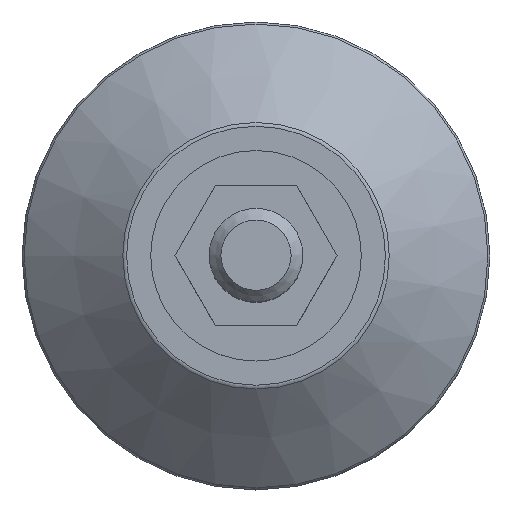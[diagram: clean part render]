
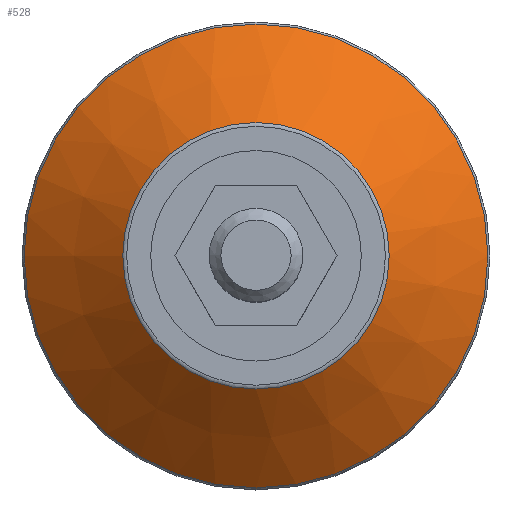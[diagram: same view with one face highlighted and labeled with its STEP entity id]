
A CAD part, top view. The second image highlights one B-rep face of the part: STEP entity #528.
In plain terms, the highlighted conical face has half-angle 49.399 degrees and reference radius 31.216 mm.
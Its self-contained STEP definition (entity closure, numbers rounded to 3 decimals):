
#103=FACE_BOUND('',#208,.T.);
#140=FACE_OUTER_BOUND('',#207,.T.);
#207=EDGE_LOOP('',(#435));
#208=EDGE_LOOP('',(#436));
#277=CIRCLE('',#609,39.651);
#278=CIRCLE('',#611,22.781);
#320=VERTEX_POINT('',#928);
#321=VERTEX_POINT('',#931);
#369=EDGE_CURVE('',#320,#320,#277,.T.);
#370=EDGE_CURVE('',#321,#321,#278,.T.);
#435=ORIENTED_EDGE('',*,*,#369,.T.);
#436=ORIENTED_EDGE('',*,*,#370,.F.);
#503=CONICAL_SURFACE('',#610,31.216,49.399);
#528=ADVANCED_FACE('',(#140,#103),#503,.T.);
#609=AXIS2_PLACEMENT_3D('',#929,#747,#748);
#610=AXIS2_PLACEMENT_3D('',#930,#749,#750);
#611=AXIS2_PLACEMENT_3D('',#932,#751,#752);
#747=DIRECTION('center_axis',(0.,0.,1.));
#748=DIRECTION('ref_axis',(1.,0.,0.));
#749=DIRECTION('center_axis',(0.,0.,-1.));
#750=DIRECTION('ref_axis',(1.,0.,0.));
#751=DIRECTION('center_axis',(0.,0.,1.));
#752=DIRECTION('ref_axis',(1.,0.,0.));
#928=CARTESIAN_POINT('',(-40.551,2.551,-2.201));
#929=CARTESIAN_POINT('Origin',(-0.9,2.551,-2.201));
#930=CARTESIAN_POINT('Origin',(-0.9,2.551,5.029));
#931=CARTESIAN_POINT('',(-23.681,2.551,12.259));
#932=CARTESIAN_POINT('Origin',(-0.9,2.551,12.259));
